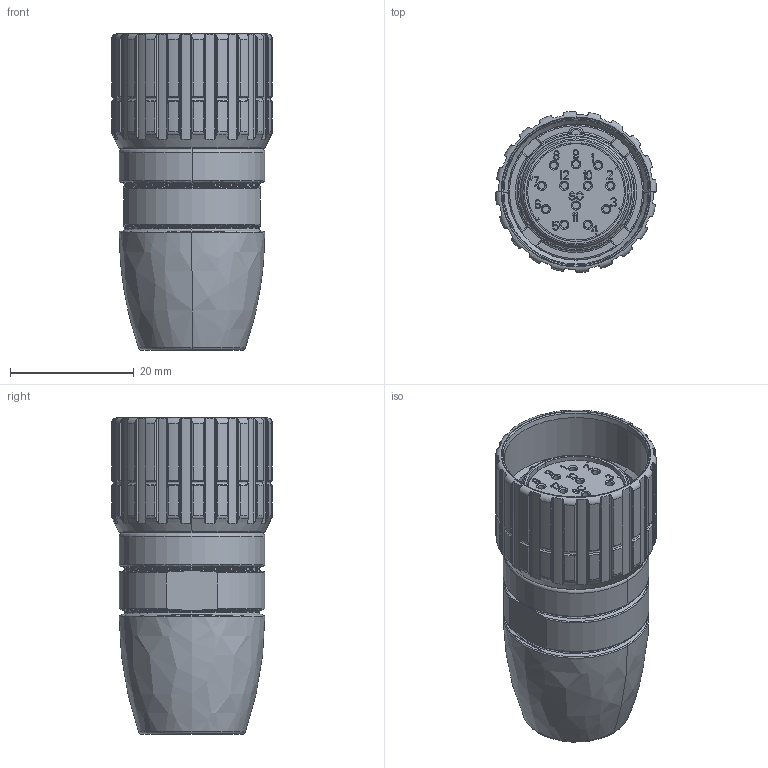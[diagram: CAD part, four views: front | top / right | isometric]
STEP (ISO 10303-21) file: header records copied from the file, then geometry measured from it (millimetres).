
FILE_DESCRIPTION((''),'2;1');
FILE_NAME('1611075','2018-02-09T',('vbengel'),(''),'PRO/ENGINEER BY PARAMETRIC TECHNOLOGY CORPORATION, 2014200','PRO/ENGINEER BY PARAMETRIC TECHNOLOGY CORPORATION, 2014200','');
FILE_SCHEMA(('AUTOMOTIVE_DESIGN { 1 0 10303 214 1 1 1 1 }'));
Length unit declared in the file: millimetre
Products named in the file (1): 1611075
Bounding box: 26 x 26 x 51.1 mm (x, y, z)
Volume: 17850.3 mm3; surface area: 7165 mm2
Topology: 1 solids, 2 shells, 1197 faces, 3340 edges, 2190 vertices
Faces by surface type: plane 717, cylinder 292, torus 86, cone 84, bspline 10, sphere 8
Entity records: 40455 total; most frequent: CARTESIAN_POINT 10278, ORIENTED_EDGE 6680, DIRECTION 5679, EDGE_CURVE 3340, VERTEX_POINT 2190, VECTOR 2183, LINE 2183, AXIS2_PLACEMENT_3D 1748
